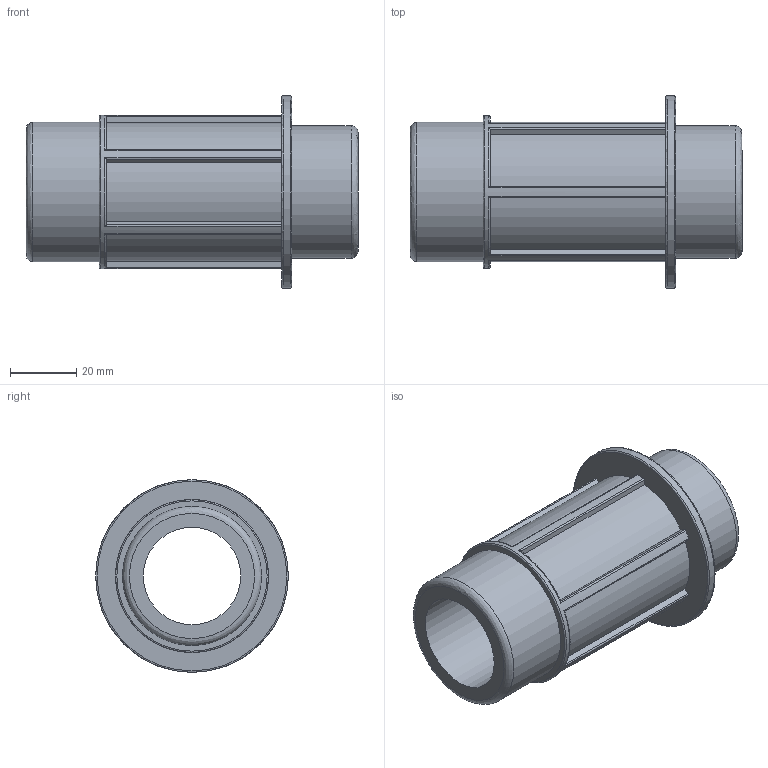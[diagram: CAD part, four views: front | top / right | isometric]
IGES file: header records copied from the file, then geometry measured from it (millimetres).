
Global section: file name: 078901040013.ipt; native system: Autodesk Inventor 2015; preprocessor: unknown; author: KIM; date: 20180409.130854; units: millimetre
Bounding box: 100 x 58 x 58 mm (x, y, z)
Volume: 74269.1 mm3; surface area: 27755.2 mm2
Topology: 1 solids, 1 shells, 57 faces, 163 edges, 111 vertices
Faces by surface type: plane 23, cylinder 22, revolution 12
Full cylindrical faces by diameter (mm): 40 x1, 41.91 x1, 46.101 x1, 58 x1
